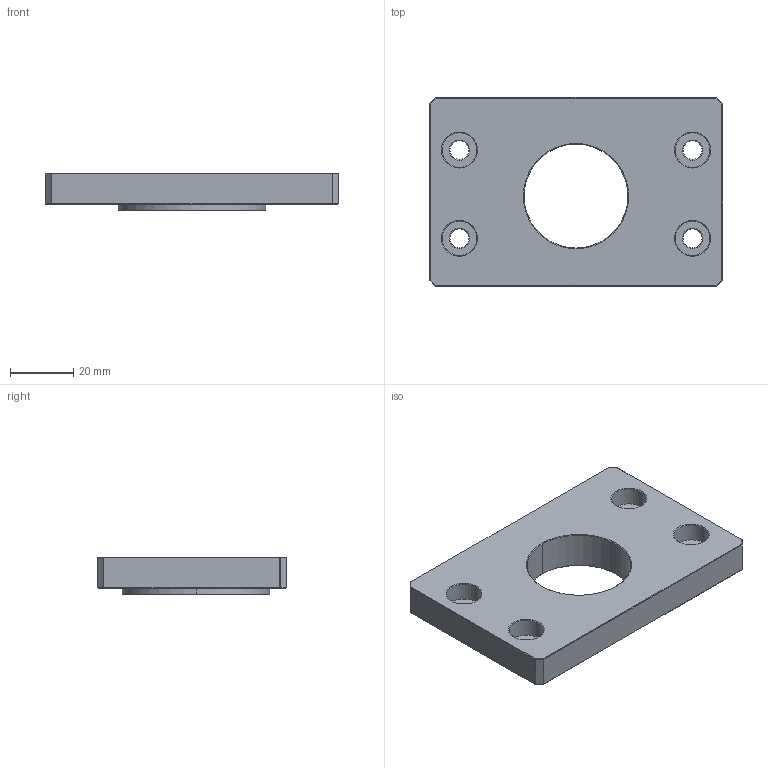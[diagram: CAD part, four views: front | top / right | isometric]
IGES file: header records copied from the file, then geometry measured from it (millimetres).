
Start section:  PTC IGES file: MI60.igs
Global section: file name: MI60.igs; native system: Pro/ENGINEER by Parametric Technology Corporation; preprocessor: 2009440; author: Owner; organization: Unknown; date: 20170523.145337; units: millimetre
Bounding box: 93 x 60 x 12 mm (x, y, z)
Surface area: 14743.7 mm2 (no closed solid volume)
Topology: 0 solids, 0 shells, 82 faces, 362 edges, 362 vertices
Faces by surface type: revolution 50, bspline 32
